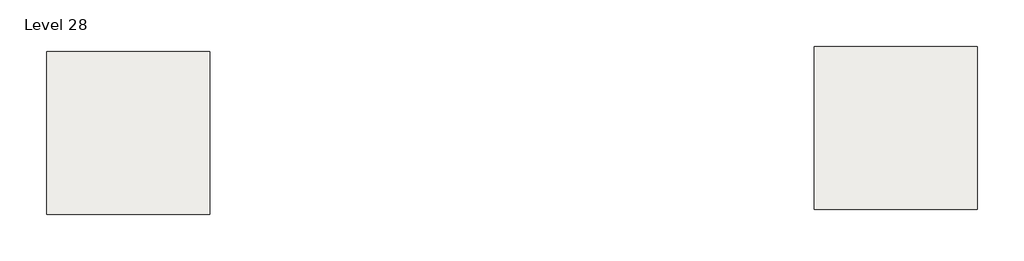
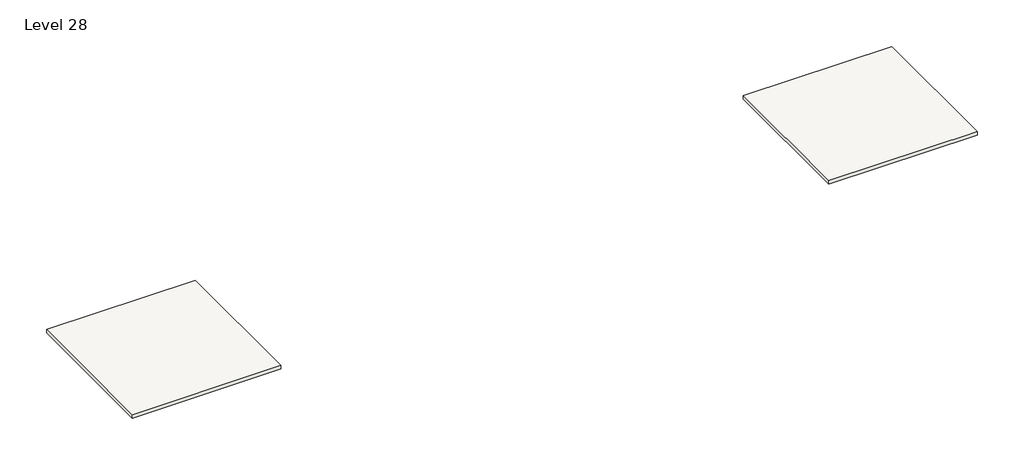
# One storey: 2 slabs.
"""IFC4 building model written with IfcOpenShell, lengths in millimetres."""

from ifc_helpers import new_model, si_unit, frame, origin, place, context, project, spatial, polyline, outline, extrude, element, save

model = new_model("IFC4")

# Units and contexts
model_context = context("Model", 3, world=origin())
ifc_project = project(units=[si_unit("LENGTHUNIT", "METRE", prefix="MILLI")], contexts=[model_context])

# Site, building, storey
site = spatial("IfcSite", under=ifc_project)
building = spatial("IfcBuilding", under=site)
storey = spatial("IfcBuildingStorey", under=building, Name="Level 28", Elevation=82296.0)

# Slabs
placement = place(None, origin())
element("IfcSlab", 1, ObjectType="Generic - 12\"", at=placement, inside=storey, context=model_context, shape_type="SweptSolid", body=[
    extrude(outline(polyline([(-19315.4161695, 7973.9495511), (-7123.4161695, 7973.9495511), (-7123.4161695, -4218.0504489), (-19315.4161695, -4218.0504489), (-19315.4161695, 7973.9495511)])), frame((0.0, 0.0, 81991.2), z_axis=(0.0, 0.0, 1.0), x_axis=(1.0, 0.0, 0.0)), (0.0, 0.0, 1.0), 304.8),
])
element("IfcSlab", 2, ObjectType="Generic - 12\"", at=placement, inside=storey, context=model_context, shape_type="SweptSolid", body=[
    extrude(outline(polyline([(38118.2903978, 8351.0904402), (50310.2903978, 8351.0904402), (50310.2903978, -3840.9095598), (38118.2903978, -3840.9095598), (38118.2903978, 8351.0904402)])), frame((0.0, 0.0, 81991.2), z_axis=(0.0, 0.0, 1.0), x_axis=(1.0, 0.0, 0.0)), (0.0, 0.0, 1.0), 304.8),
])

save(model, "model.ifc")
